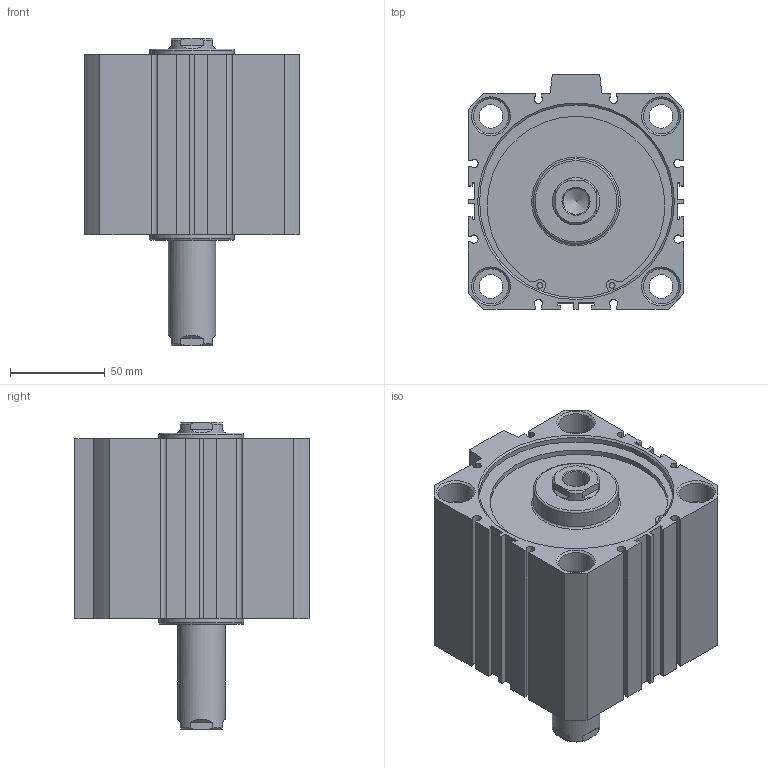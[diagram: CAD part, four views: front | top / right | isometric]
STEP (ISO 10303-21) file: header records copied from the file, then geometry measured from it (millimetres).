
FILE_DESCRIPTION((''),'2;1');
FILE_NAME('I:\3D電子目錄\氣缸\JDD\JDD\JDD100\JDD100x50.stp','2007-02-08T11:57:34',('662F206'),(''),'Autodesk Inventor 10','Autodesk Inventor 10','');
FILE_SCHEMA(('AUTOMOTIVE_DESIGN { 1 0 10303 214 1 1 1 1 }'));
Length unit declared in the file: millimetre
Products named in the file (3): JDD100; R 形環 100
Assembly tree (3 placements, depth 2):
  JDD100
    JDD100
    R 形環 100  x2
Bounding box: 114 x 124 x 162.7 mm (x, y, z)
Volume: 1091089.5 mm3; surface area: 126473.1 mm2
Topology: 3 solids, 3 shells, 200 faces, 502 edges, 330 vertices
Faces by surface type: plane 116, cylinder 52, cone 24, bspline 6, torus 2
Full cylindrical faces by diameter (mm): 3.1 x4, 3.5 x2, 12.5 x4, 18.5 x8, 25 x2, 45 x2, 102 x4, 106 x2
Entity records: 5511 total; most frequent: CARTESIAN_POINT 1094, DIRECTION 908, ORIENTED_EDGE 824, EDGE_CURVE 412, AXIS2_PLACEMENT_3D 324, VERTEX_POINT 300, EDGE_LOOP 272, VECTOR 260
